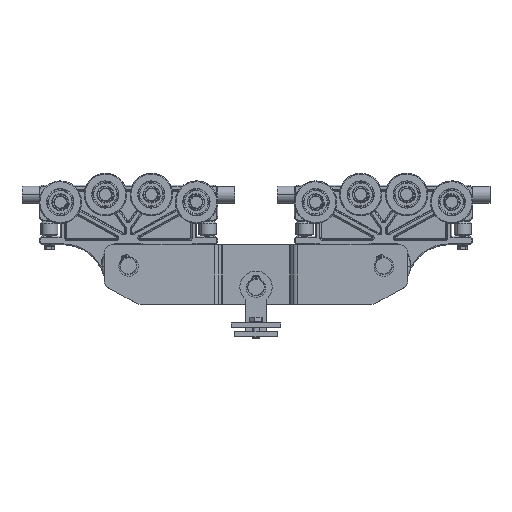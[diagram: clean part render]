
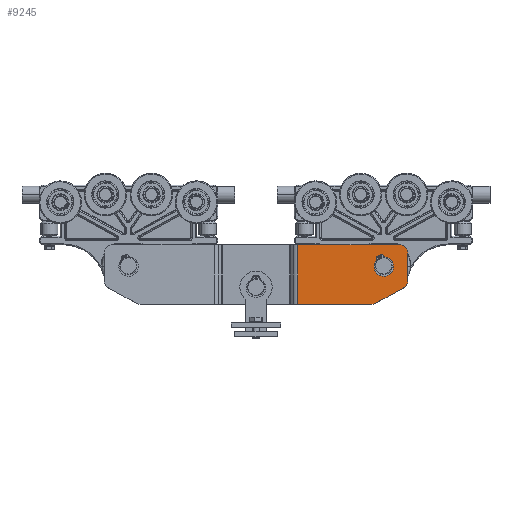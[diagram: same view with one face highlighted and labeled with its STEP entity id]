
A CAD part, top view. The second image highlights one B-rep face of the part: STEP entity #9245.
In plain terms, the highlighted planar face has unit normal (0, 0, 1).
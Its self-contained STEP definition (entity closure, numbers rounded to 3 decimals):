
#9245 = ADVANCED_FACE ( 'NONE', ( #44882, #44897 ), #105916, .F. ) ;
#11840 = EDGE_CURVE ( 'NONE', #43072, #43102, #68981, .T. ) ;
#11846 = EDGE_CURVE ( 'NONE', #43122, #43112, #68999, .T. ) ;
#11847 = EDGE_CURVE ( 'NONE', #43122, #43124, #69001, .T. ) ;
#11848 = EDGE_CURVE ( 'NONE', #43126, #43124, #69005, .T. ) ;
#11849 = EDGE_CURVE ( 'NONE', #43126, #43051, #69009, .T. ) ;
#11850 = EDGE_CURVE ( 'NONE', #43128, #43051, #69015, .T. ) ;
#11851 = EDGE_CURVE ( 'NONE', #43128, #43018, #69011, .T. ) ;
#11852 = EDGE_CURVE ( 'NONE', #43119, #43018, #69024, .T. ) ;
#11854 = EDGE_CURVE ( 'NONE', #43119, #43112, #69018, .T. ) ;
#11856 = EDGE_CURVE ( 'NONE', #43102, #43072, #69036, .T. ) ;
#16210 = EDGE_LOOP ( 'NONE', ( #94792, #94794 ) ) ;
#16235 = EDGE_LOOP ( 'NONE', ( #94776, #94778, #94780, #94782, #94784, #94786, #94788, #94790 ) ) ;
#23686 = AXIS2_PLACEMENT_3D ( 'NONE', #73011, #73013, #73014 ) ;
#23689 = AXIS2_PLACEMENT_3D ( 'NONE', #73052, #73054, #73056 ) ;
#23690 = AXIS2_PLACEMENT_3D ( 'NONE', #73064, #73066, #73067 ) ;
#23691 = AXIS2_PLACEMENT_3D ( 'NONE', #73084, #73086, #73087 ) ;
#23692 = AXIS2_PLACEMENT_3D ( 'NONE', #73092, #73094, #73096 ) ;
#43018 = VERTEX_POINT ( 'NONE', #52133 ) ;
#43051 = VERTEX_POINT ( 'NONE', #52151 ) ;
#43072 = VERTEX_POINT ( 'NONE', #52163 ) ;
#43102 = VERTEX_POINT ( 'NONE', #52177 ) ;
#43112 = VERTEX_POINT ( 'NONE', #52183 ) ;
#43119 = VERTEX_POINT ( 'NONE', #52186 ) ;
#43122 = VERTEX_POINT ( 'NONE', #52188 ) ;
#43124 = VERTEX_POINT ( 'NONE', #52189 ) ;
#43126 = VERTEX_POINT ( 'NONE', #52190 ) ;
#43128 = VERTEX_POINT ( 'NONE', #52191 ) ;
#44882 = FACE_OUTER_BOUND ( 'NONE', #16235, .T. ) ;
#44897 = FACE_BOUND ( 'NONE', #16210, .T. ) ;
#52133 = CARTESIAN_POINT ( 'NONE',  ( -154.515, -51.852, 20. ) ) ;
#52151 = CARTESIAN_POINT ( 'NONE',  ( -34.929, 18.148, 20. ) ) ;
#52163 = CARTESIAN_POINT ( 'NONE',  ( -63.914, -6.852, 20. ) ) ;
#52177 = CARTESIAN_POINT ( 'NONE',  ( -42.914, -6.852, 20. ) ) ;
#52183 = CARTESIAN_POINT ( 'NONE',  ( -62.679, -50.614, 20. ) ) ;
#52186 = CARTESIAN_POINT ( 'NONE',  ( -67.498, -51.852, 20. ) ) ;
#52188 = CARTESIAN_POINT ( 'NONE',  ( -30.11, -32.701, 20. ) ) ;
#52189 = CARTESIAN_POINT ( 'NONE',  ( -24.929, -23.939, 20. ) ) ;
#52190 = CARTESIAN_POINT ( 'NONE',  ( -24.929, 8.148, 20. ) ) ;
#52191 = CARTESIAN_POINT ( 'NONE',  ( -154.515, 18.148, 20. ) ) ;
#68981 = CIRCLE ( 'NONE', #23686, 10.5 ) ;
#68999 = LINE ( 'NONE', #73032, #69007 ) ;
#69001 = CIRCLE ( 'NONE', #23689, 10. ) ;
#69005 = LINE ( 'NONE', #73050, #69013 ) ;
#69007 = VECTOR ( 'NONE', #73042, 1000. ) ;
#69009 = CIRCLE ( 'NONE', #23690, 10. ) ;
#69011 = LINE ( 'NONE', #73062, #69027 ) ;
#69013 = VECTOR ( 'NONE', #73045, 1000. ) ;
#69015 = LINE ( 'NONE', #73057, #69021 ) ;
#69018 = CIRCLE ( 'NONE', #23691, 10. ) ;
#69021 = VECTOR ( 'NONE', #73046, 1000. ) ;
#69024 = LINE ( 'NONE', #73074, #69033 ) ;
#69027 = VECTOR ( 'NONE', #73070, 1000. ) ;
#69033 = VECTOR ( 'NONE', #73076, 1000. ) ;
#69036 = CIRCLE ( 'NONE', #23692, 10.5 ) ;
#73011 = CARTESIAN_POINT ( 'NONE',  ( -53.414, -6.852, 20. ) ) ;
#73013 = DIRECTION ( 'NONE',  ( 0., 0., -1. ) ) ;
#73014 = DIRECTION ( 'NONE',  ( 1., 0., 0. ) ) ;
#73032 = CARTESIAN_POINT ( 'NONE',  ( -141.693, -94.072, 20. ) ) ;
#73042 = DIRECTION ( 'NONE',  ( -0.876, -0.482, 0. ) ) ;
#73045 = DIRECTION ( 'NONE',  ( 0., -1., 0. ) ) ;
#73046 = DIRECTION ( 'NONE',  ( 1., 0., 0. ) ) ;
#73050 = CARTESIAN_POINT ( 'NONE',  ( -24.929, -51.852, 20. ) ) ;
#73052 = CARTESIAN_POINT ( 'NONE',  ( -34.929, -23.939, 20. ) ) ;
#73054 = DIRECTION ( 'NONE',  ( 0., 0., 1. ) ) ;
#73056 = DIRECTION ( 'NONE',  ( 1., 0., 0. ) ) ;
#73057 = CARTESIAN_POINT ( 'NONE',  ( -24.929, 18.148, 20. ) ) ;
#73062 = CARTESIAN_POINT ( 'NONE',  ( -154.515, 18.148, 20. ) ) ;
#73064 = CARTESIAN_POINT ( 'NONE',  ( -34.929, 8.148, 20. ) ) ;
#73066 = DIRECTION ( 'NONE',  ( 0., 0., 1. ) ) ;
#73067 = DIRECTION ( 'NONE',  ( 1., 0., 0. ) ) ;
#73070 = DIRECTION ( 'NONE',  ( 0., -1., 0. ) ) ;
#73074 = CARTESIAN_POINT ( 'NONE',  ( -154.929, -51.852, 20. ) ) ;
#73076 = DIRECTION ( 'NONE',  ( -1., 0., 0. ) ) ;
#73084 = CARTESIAN_POINT ( 'NONE',  ( -67.498, -41.852, 20. ) ) ;
#73086 = DIRECTION ( 'NONE',  ( 0., 0., 1. ) ) ;
#73087 = DIRECTION ( 'NONE',  ( 1., 0., 0. ) ) ;
#73092 = CARTESIAN_POINT ( 'NONE',  ( -53.414, -6.852, 20. ) ) ;
#73094 = DIRECTION ( 'NONE',  ( 0., 0., -1. ) ) ;
#73096 = DIRECTION ( 'NONE',  ( 1., 0., 0. ) ) ;
#94776 = ORIENTED_EDGE ( 'NONE', *, *, #11846, .F. ) ;
#94778 = ORIENTED_EDGE ( 'NONE', *, *, #11847, .T. ) ;
#94780 = ORIENTED_EDGE ( 'NONE', *, *, #11848, .F. ) ;
#94782 = ORIENTED_EDGE ( 'NONE', *, *, #11849, .T. ) ;
#94784 = ORIENTED_EDGE ( 'NONE', *, *, #11850, .F. ) ;
#94786 = ORIENTED_EDGE ( 'NONE', *, *, #11851, .T. ) ;
#94788 = ORIENTED_EDGE ( 'NONE', *, *, #11852, .F. ) ;
#94790 = ORIENTED_EDGE ( 'NONE', *, *, #11854, .T. ) ;
#94792 = ORIENTED_EDGE ( 'NONE', *, *, #11840, .T. ) ;
#94794 = ORIENTED_EDGE ( 'NONE', *, *, #11856, .T. ) ;
#102687 = AXIS2_PLACEMENT_3D ( 'NONE', #105913, #105918, #105919 ) ;
#105913 = CARTESIAN_POINT ( 'NONE',  ( -203.414, 18.148, 20. ) ) ;
#105916 = PLANE ( 'NONE',  #102687 ) ;
#105918 = DIRECTION ( 'NONE',  ( 0., 0., -1. ) ) ;
#105919 = DIRECTION ( 'NONE',  ( -1., 0., 0. ) ) ;
